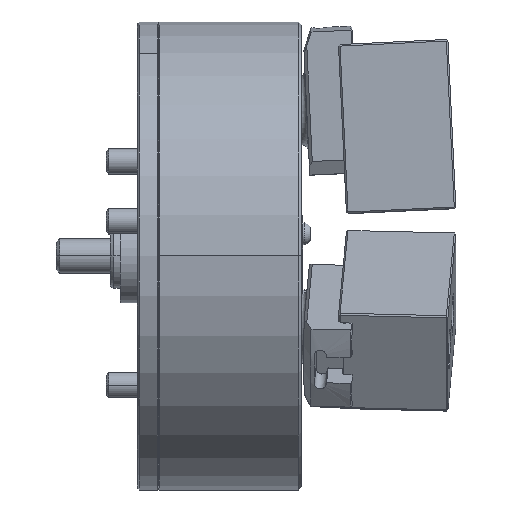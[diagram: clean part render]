
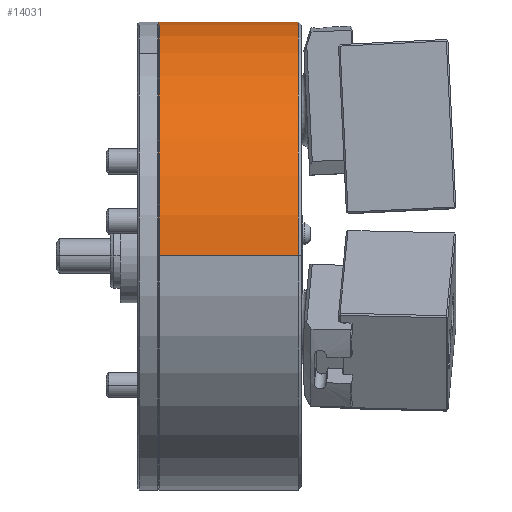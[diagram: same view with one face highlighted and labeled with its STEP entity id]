
A CAD part, top view. The second image highlights one B-rep face of the part: STEP entity #14031.
In plain terms, the highlighted cylindrical face has radius 150 mm (diameter 300 mm), a partial arc.
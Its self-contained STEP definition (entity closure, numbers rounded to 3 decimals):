
#226 = DIRECTION ( 'NONE',  ( 1., 0., 0. ) ) ;
#897 = EDGE_CURVE ( 'NONE', #36502, #33720, #25755, .T. ) ;
#1164 = CARTESIAN_POINT ( 'NONE',  ( -91.2, 0., 0. ) ) ;
#4052 = DIRECTION ( 'NONE',  ( 0., 0., -1. ) ) ;
#6152 = DIRECTION ( 'NONE',  ( 1., 0., 0. ) ) ;
#8087 = CARTESIAN_POINT ( 'NONE',  ( 63.843, 0., 150. ) ) ;
#8649 = DIRECTION ( 'NONE',  ( 1., 0., 0. ) ) ;
#8988 = VERTEX_POINT ( 'NONE', #17142 ) ;
#9154 = EDGE_LOOP ( 'NONE', ( #39922, #32201, #27380, #17013 ) ) ;
#14012 = CARTESIAN_POINT ( 'NONE',  ( -2., 0., -150. ) ) ;
#14031 = ADVANCED_FACE ( 'NONE', ( #37146 ), #37374, .T. ) ;
#14111 = CARTESIAN_POINT ( 'NONE',  ( 63.843, 0., -150. ) ) ;
#15632 = CARTESIAN_POINT ( 'NONE',  ( -91.2, 0., -150. ) ) ;
#17013 = ORIENTED_EDGE ( 'NONE', *, *, #897, .F. ) ;
#17142 = CARTESIAN_POINT ( 'NONE',  ( -91.2, 0., 150. ) ) ;
#17792 = DIRECTION ( 'NONE',  ( 0., 0., -1. ) ) ;
#19789 = CIRCLE ( 'NONE', #33422, 150. ) ;
#23585 = AXIS2_PLACEMENT_3D ( 'NONE', #43201, #6152, #17792 ) ;
#23621 = CARTESIAN_POINT ( 'NONE',  ( 63.843, 0., 0. ) ) ;
#25160 = VECTOR ( 'NONE', #226, 1000. ) ;
#25478 = DIRECTION ( 'NONE',  ( 1., 0., 0. ) ) ;
#25755 = LINE ( 'NONE', #14111, #42786 ) ;
#27205 = CARTESIAN_POINT ( 'NONE',  ( -2., 0., 150. ) ) ;
#27380 = ORIENTED_EDGE ( 'NONE', *, *, #39489, .F. ) ;
#28585 = DIRECTION ( 'NONE',  ( 1., 0., 0. ) ) ;
#29765 = DIRECTION ( 'NONE',  ( 0., 0., -1. ) ) ;
#30452 = AXIS2_PLACEMENT_3D ( 'NONE', #23621, #8649, #29765 ) ;
#31150 = CIRCLE ( 'NONE', #23585, 150. ) ;
#32201 = ORIENTED_EDGE ( 'NONE', *, *, #40288, .T. ) ;
#33422 = AXIS2_PLACEMENT_3D ( 'NONE', #1164, #25478, #4052 ) ;
#33720 = VERTEX_POINT ( 'NONE', #14012 ) ;
#36502 = VERTEX_POINT ( 'NONE', #15632 ) ;
#37146 = FACE_OUTER_BOUND ( 'NONE', #9154, .T. ) ;
#37374 = CYLINDRICAL_SURFACE ( 'NONE', #30452, 150. ) ;
#39267 = EDGE_CURVE ( 'NONE', #36502, #8988, #19789, .T. ) ;
#39489 = EDGE_CURVE ( 'NONE', #33720, #40964, #31150, .T. ) ;
#39922 = ORIENTED_EDGE ( 'NONE', *, *, #39267, .T. ) ;
#40288 = EDGE_CURVE ( 'NONE', #8988, #40964, #40888, .T. ) ;
#40888 = LINE ( 'NONE', #8087, #25160 ) ;
#40964 = VERTEX_POINT ( 'NONE', #27205 ) ;
#42786 = VECTOR ( 'NONE', #28585, 1000. ) ;
#43201 = CARTESIAN_POINT ( 'NONE',  ( -2., 0., 0. ) ) ;
